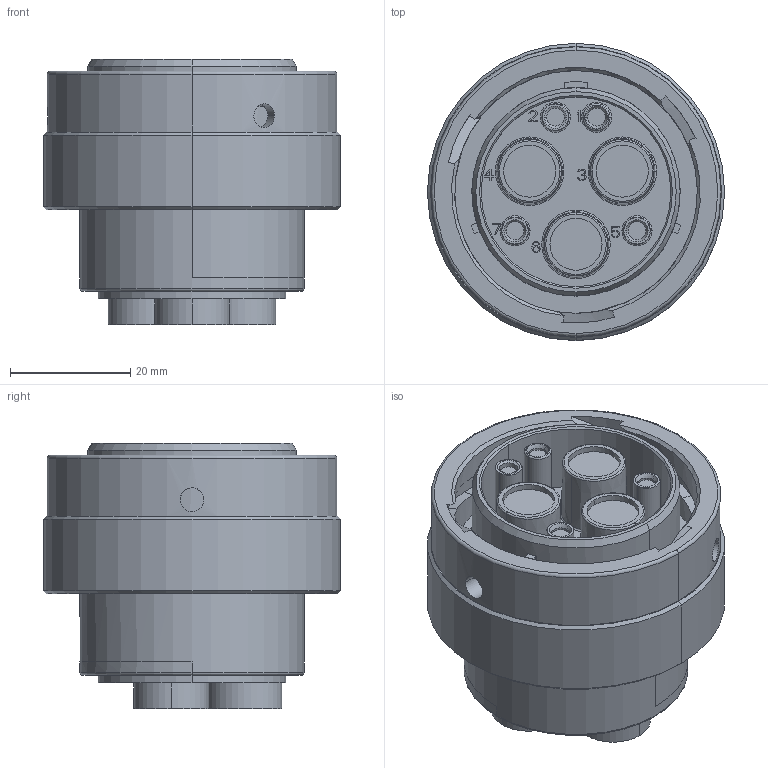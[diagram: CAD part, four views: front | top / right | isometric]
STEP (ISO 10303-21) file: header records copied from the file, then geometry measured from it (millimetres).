
FILE_DESCRIPTION((''),'2;1');
FILE_NAME('C-HDP26-24-7SN-C038','2013-06-27T',('workeradm'),('Tyco Electronics Ltd.'),'PRO/ENGINEER BY PARAMETRIC TECHNOLOGY CORPORATION, 2011490','PRO/ENGINEER BY PARAMETRIC TECHNOLOGY CORPORATION, 2011490','');
FILE_SCHEMA(('AUTOMOTIVE_DESIGN { 1 0 10303 214 1 1 1 1 }'));
Length unit declared in the file: millimetre
Products named in the file (1): C-HDP26-24-7SN-C038
Bounding box: 49.53 x 49.53 x 44.25 mm (x, y, z)
Volume: 51203.5 mm3; surface area: 16743.8 mm2
Topology: 1 solids, 1 shells, 482 faces, 1237 edges, 799 vertices
Faces by surface type: plane 277, cylinder 96, torus 44, bspline 34, cone 31
Entity records: 16820 total; most frequent: CARTESIAN_POINT 4801, ORIENTED_EDGE 2474, DIRECTION 2330, EDGE_CURVE 1237, VECTOR 830, LINE 830, VERTEX_POINT 799, AXIS2_PLACEMENT_3D 750
